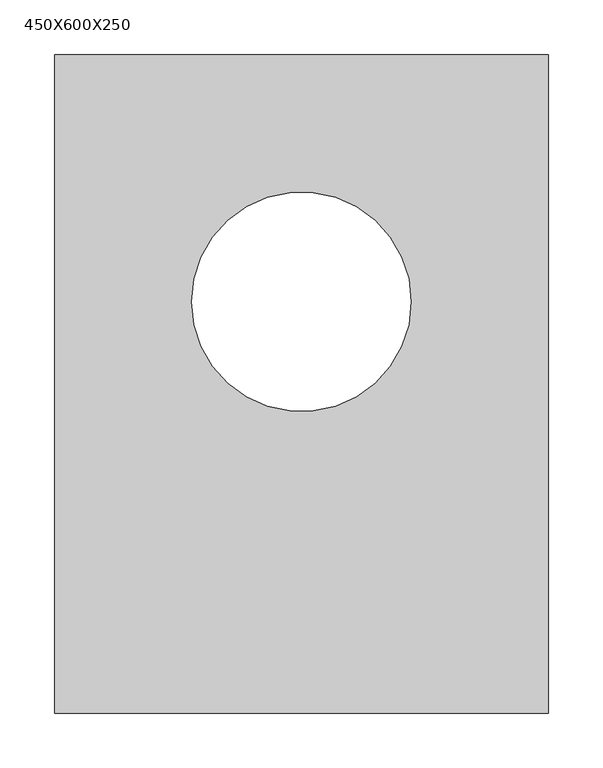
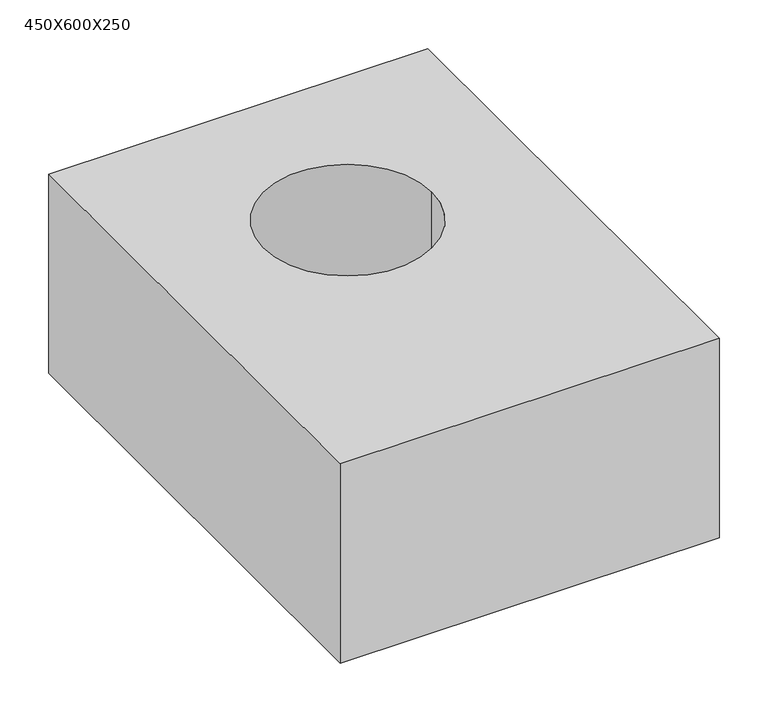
"""IFC4 building model written with IfcOpenShell, lengths in millimetres: plate geometry, GASBETON Evolution Forati : 450X600X250."""

from ifc_helpers import new_model, si_unit, point, frame_2d, origin, origin_with_axes, place, context, project, spatial, polyline, circle_curve, trimmed, segment, composite_curve, outline, extrude, source, transform, mapped, element, save


def plate_450x600x250_28594f57(model_context):
    return source(origin(), model_context, "Body", "SweptSolid", [
        extrude(outline(polyline([(225.0, 300.0), (225.0, -300.0), (-225.0, -300.0), (-225.0, 300.0), (225.0, 300.0)]), holes=[composite_curve([segment(trimmed(circle_curve(frame_2d((0.0, 75.0)), 100.0), [point((-100.0, 75.0))], [point((100.0, 75.0))], True, "CARTESIAN"), True, "CONTINUOUS"), segment(trimmed(circle_curve(frame_2d((0.0, 75.0)), 100.0), [point((100.0, 75.0))], [point((-100.0, 75.0))], True, "CARTESIAN"), True, "CONTINUOUS")], self_intersect=False)]), origin_with_axes(), (0.0, 0.0, 1.0), 250.0),
    ])


if __name__ == "__main__":
    model = new_model("IFC4")
    model_context = context("Model", 3, world=origin())
    ifc_project = project(units=[si_unit("LENGTHUNIT", "METRE", prefix="MILLI")], contexts=[model_context])
    site = spatial("IfcSite", under=ifc_project)
    building = spatial("IfcBuilding", under=site)
    placement = place(None, origin())
    plate_450x600x250_shape = plate_450x600x250_28594f57(model_context)
    element("IfcPlate", 1, ObjectType="GASBETON Evolution Forati : 450X600X250", at=placement, inside=building, context=model_context, shape_type="MappedRepresentation", body=[
        mapped(plate_450x600x250_shape, transform((0.0, 0.0, 0.0), x_axis=(1.0, 0.0, 0.0), y_axis=(0.0, 1.0, 0.0), z_axis=(0.0, 0.0, 1.0))),
    ])
    save(model, "model.ifc")
